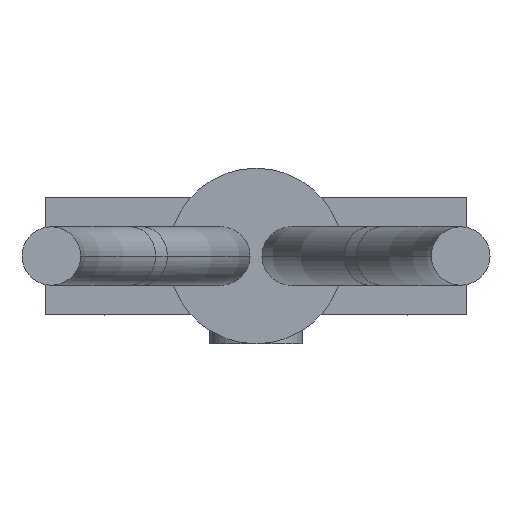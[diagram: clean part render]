
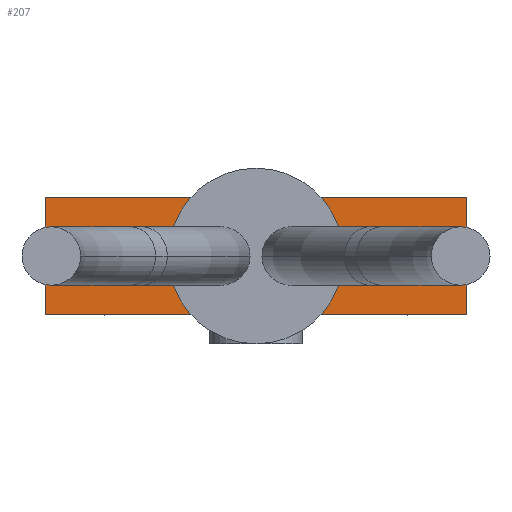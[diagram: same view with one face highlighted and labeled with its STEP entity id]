
A CAD part, front view. The second image highlights one B-rep face of the part: STEP entity #207.
In plain terms, the highlighted planar face has unit normal (0, -1, 0).
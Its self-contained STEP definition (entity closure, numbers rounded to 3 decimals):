
#10 = VERTEX_POINT ( 'NONE', #833 ) ;
#22 = EDGE_CURVE ( 'NONE', #10, #161, #819, .T. ) ;
#152 = EDGE_CURVE ( 'NONE', #10, #169, #1063, .T. ) ;
#161 = VERTEX_POINT ( 'NONE', #1103 ) ;
#169 = VERTEX_POINT ( 'NONE', #1091 ) ;
#196 = ORIENTED_EDGE ( 'NONE', *, *, #206, .F. ) ;
#205 = EDGE_LOOP ( 'NONE', ( #196, #210 ) ) ;
#206 = EDGE_CURVE ( 'NONE', #673, #644, #1155, .T. ) ;
#207 = ADVANCED_FACE ( 'NONE', ( #1150, #1149, #1148 ), #1147, .T. ) ;
#210 = ORIENTED_EDGE ( 'NONE', *, *, #642, .F. ) ;
#530 = ORIENTED_EDGE ( 'NONE', *, *, #581, .F. ) ;
#565 = ORIENTED_EDGE ( 'NONE', *, *, #152, .F. ) ;
#566 = ORIENTED_EDGE ( 'NONE', *, *, #619, .T. ) ;
#568 = ORIENTED_EDGE ( 'NONE', *, *, #22, .T. ) ;
#572 = EDGE_LOOP ( 'NONE', ( #574, #565, #568, #566 ) ) ;
#574 = ORIENTED_EDGE ( 'NONE', *, *, #575, .F. ) ;
#575 = EDGE_CURVE ( 'NONE', #169, #2487, #1735, .T. ) ;
#579 = ORIENTED_EDGE ( 'NONE', *, *, #660, .F. ) ;
#581 = EDGE_CURVE ( 'NONE', #661, #665, #1731, .T. ) ;
#619 = EDGE_CURVE ( 'NONE', #161, #2487, #1810, .T. ) ;
#642 = EDGE_CURVE ( 'NONE', #644, #673, #1826, .T. ) ;
#644 = VERTEX_POINT ( 'NONE', #1884 ) ;
#660 = EDGE_CURVE ( 'NONE', #665, #661, #1858, .T. ) ;
#661 = VERTEX_POINT ( 'NONE', #1916 ) ;
#665 = VERTEX_POINT ( 'NONE', #1904 ) ;
#673 = VERTEX_POINT ( 'NONE', #1895 ) ;
#816 = DIRECTION ( 'NONE',  ( 1., 0., 0. ) ) ;
#817 = VECTOR ( 'NONE', #816, 1000. ) ;
#818 = CARTESIAN_POINT ( 'NONE',  ( -3.6, -5.5, -2. ) ) ;
#819 = LINE ( 'NONE', #818, #817 ) ;
#833 = CARTESIAN_POINT ( 'NONE',  ( -3.6, -5.5, -2. ) ) ;
#1060 = DIRECTION ( 'NONE',  ( 0., 0., 1. ) ) ;
#1061 = VECTOR ( 'NONE', #1060, 1000. ) ;
#1062 = CARTESIAN_POINT ( 'NONE',  ( -3.6, -5.5, -2. ) ) ;
#1063 = LINE ( 'NONE', #1062, #1061 ) ;
#1091 = CARTESIAN_POINT ( 'NONE',  ( -3.6, -5.5, 0. ) ) ;
#1103 = CARTESIAN_POINT ( 'NONE',  ( 3.6, -5.5, -2. ) ) ;
#1143 = DIRECTION ( 'NONE',  ( 0., 0., -1. ) ) ;
#1144 = DIRECTION ( 'NONE',  ( 0., -1., 0. ) ) ;
#1145 = CARTESIAN_POINT ( 'NONE',  ( -3.6, -5.5, -2. ) ) ;
#1146 = AXIS2_PLACEMENT_3D ( 'NONE', #1145, #1144, #1143 ) ;
#1147 = PLANE ( 'NONE',  #1146 ) ;
#1148 = FACE_OUTER_BOUND ( 'NONE', #572, .T. ) ;
#1149 = FACE_BOUND ( 'NONE', #2469, .T. ) ;
#1150 = FACE_BOUND ( 'NONE', #205, .T. ) ;
#1151 = DIRECTION ( 'NONE',  ( 0., 0., -1. ) ) ;
#1152 = DIRECTION ( 'NONE',  ( 0., -1., 0. ) ) ;
#1153 = CARTESIAN_POINT ( 'NONE',  ( -2.5, -5.5, -1. ) ) ;
#1154 = AXIS2_PLACEMENT_3D ( 'NONE', #1153, #1152, #1151 ) ;
#1155 = CIRCLE ( 'NONE', #1154, 0.5 ) ;
#1727 = DIRECTION ( 'NONE',  ( 0., 0., -1. ) ) ;
#1728 = DIRECTION ( 'NONE',  ( 0., -1., 0. ) ) ;
#1729 = CARTESIAN_POINT ( 'NONE',  ( 2.5, -5.5, -1. ) ) ;
#1730 = AXIS2_PLACEMENT_3D ( 'NONE', #1729, #1728, #1727 ) ;
#1731 = CIRCLE ( 'NONE', #1730, 0.5 ) ;
#1732 = DIRECTION ( 'NONE',  ( 1., 0., 0. ) ) ;
#1733 = VECTOR ( 'NONE', #1732, 1000. ) ;
#1734 = CARTESIAN_POINT ( 'NONE',  ( -3.6, -5.5, 0. ) ) ;
#1735 = LINE ( 'NONE', #1734, #1733 ) ;
#1807 = DIRECTION ( 'NONE',  ( 0., 0., 1. ) ) ;
#1808 = VECTOR ( 'NONE', #1807, 1000. ) ;
#1809 = CARTESIAN_POINT ( 'NONE',  ( 3.6, -5.5, -2. ) ) ;
#1810 = LINE ( 'NONE', #1809, #1808 ) ;
#1822 = DIRECTION ( 'NONE',  ( 0., 0., -1. ) ) ;
#1823 = DIRECTION ( 'NONE',  ( 0., -1., 0. ) ) ;
#1824 = CARTESIAN_POINT ( 'NONE',  ( -2.5, -5.5, -1. ) ) ;
#1825 = AXIS2_PLACEMENT_3D ( 'NONE', #1824, #1823, #1822 ) ;
#1826 = CIRCLE ( 'NONE', #1825, 0.5 ) ;
#1855 = DIRECTION ( 'NONE',  ( 0., -1., 0. ) ) ;
#1856 = CARTESIAN_POINT ( 'NONE',  ( 2.5, -5.5, -1. ) ) ;
#1857 = AXIS2_PLACEMENT_3D ( 'NONE', #1856, #1855, #1917 ) ;
#1858 = CIRCLE ( 'NONE', #1857, 0.5 ) ;
#1884 = CARTESIAN_POINT ( 'NONE',  ( -2., -5.5, -1. ) ) ;
#1895 = CARTESIAN_POINT ( 'NONE',  ( -3., -5.5, -1. ) ) ;
#1904 = CARTESIAN_POINT ( 'NONE',  ( 3., -5.5, -1. ) ) ;
#1916 = CARTESIAN_POINT ( 'NONE',  ( 2., -5.5, -1. ) ) ;
#1917 = DIRECTION ( 'NONE',  ( 0., 0., -1. ) ) ;
#2306 = CARTESIAN_POINT ( 'NONE',  ( 3.6, -5.5, 0. ) ) ;
#2469 = EDGE_LOOP ( 'NONE', ( #530, #579 ) ) ;
#2487 = VERTEX_POINT ( 'NONE', #2306 ) ;
